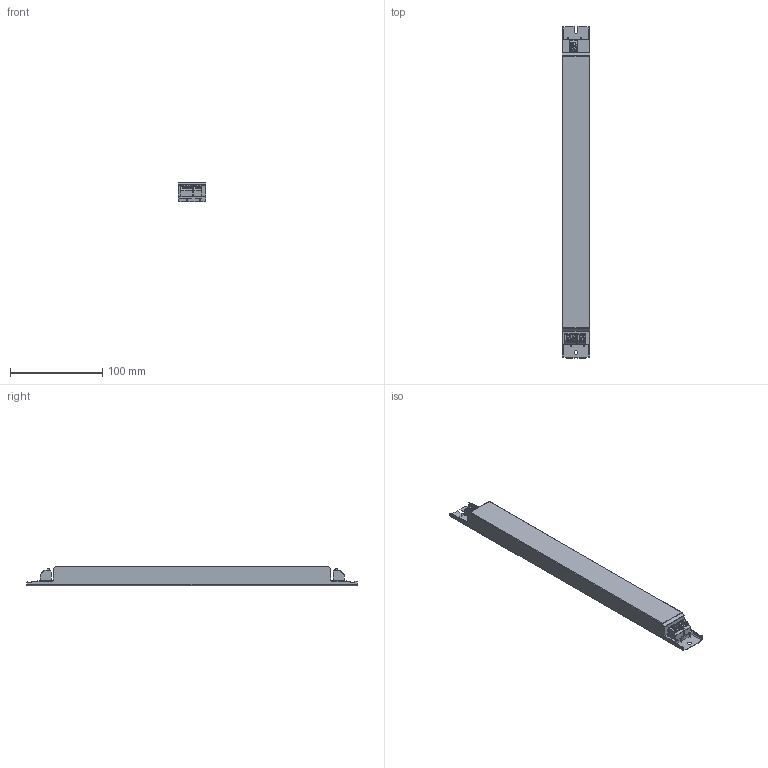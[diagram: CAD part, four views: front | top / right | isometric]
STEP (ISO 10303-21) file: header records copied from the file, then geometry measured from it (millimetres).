
FILE_DESCRIPTION((''),'2;1');
FILE_NAME('15010651_00','2017-07-25T',('Elon.Guo'),(''),'PRO/ENGINEER BY PARAMETRIC TECHNOLOGY CORPORATION, 2015200','PRO/ENGINEER BY PARAMETRIC TECHNOLOGY CORPORATION, 2015200','');
FILE_SCHEMA(('AUTOMOTIVE_DESIGN { 1 0 10303 214 1 1 1 1 }'));
Length unit declared in the file: millimetre
Products named in the file (1): 15010651_00
Bounding box: 30 x 360 x 21 mm (x, y, z)
Volume: 197841.6 mm3; surface area: 37688.2 mm2
Topology: 1 solids, 7 shells, 504 faces, 1547 edges, 1046 vertices
Faces by surface type: plane 333, cylinder 153, cone 14, torus 4
Entity records: 26415 total; most frequent: CARTESIAN_POINT 3770, ORIENTED_EDGE 3084, DIRECTION 2737, PRESENTATION_STYLE_ASSIGNMENT 2054, STYLED_ITEM 1553, CURVE_STYLE 1547, EDGE_CURVE 1547, VECTOR 1107
